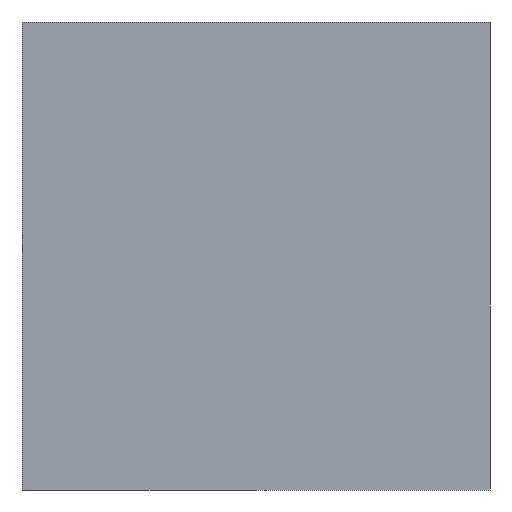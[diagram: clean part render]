
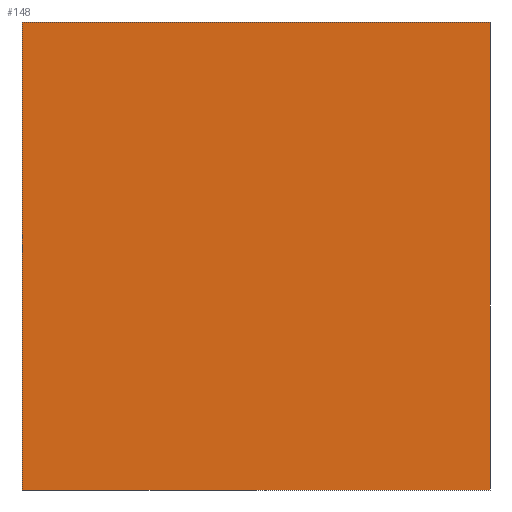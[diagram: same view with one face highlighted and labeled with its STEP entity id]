
A CAD part, left-side view. The second image highlights one B-rep face of the part: STEP entity #148.
In plain terms, the highlighted planar face has unit normal (-1, 0, 0).
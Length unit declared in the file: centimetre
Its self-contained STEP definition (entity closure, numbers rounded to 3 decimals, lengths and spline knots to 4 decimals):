
#16 = EDGE_CURVE ( 'NONE', #221, #219, #375, .T. ) ;
#20 = DIRECTION ( 'NONE',  ( 0., -1., 0. ) ) ;
#21 = ORIENTED_EDGE ( 'NONE', *, *, #176, .T. ) ;
#34 = CARTESIAN_POINT ( 'NONE',  ( 0., 1000., 1000. ) ) ;
#49 = ORIENTED_EDGE ( 'NONE', *, *, #217, .F. ) ;
#55 = CARTESIAN_POINT ( 'NONE',  ( 0., 1000., 0. ) ) ;
#56 = VECTOR ( 'NONE', #20, 100. ) ;
#87 = LINE ( 'NONE', #55, #338 ) ;
#90 = DIRECTION ( 'NONE',  ( 0., 0., -1. ) ) ;
#110 = CARTESIAN_POINT ( 'NONE',  ( 0., 1000., 1000. ) ) ;
#121 = CARTESIAN_POINT ( 'NONE',  ( 0., 0., 1000. ) ) ;
#140 = FACE_OUTER_BOUND ( 'NONE', #164, .T. ) ;
#142 = LINE ( 'NONE', #262, #56 ) ;
#145 = DIRECTION ( 'NONE',  ( 0., 0., -1. ) ) ;
#147 = CARTESIAN_POINT ( 'NONE',  ( 0., 1000., 0. ) ) ;
#148 = ADVANCED_FACE ( 'NONE', ( #140 ), #330, .F. ) ;
#152 = CARTESIAN_POINT ( 'NONE',  ( 0., 0., 1000. ) ) ;
#164 = EDGE_LOOP ( 'NONE', ( #21, #234, #49, #231 ) ) ;
#176 = EDGE_CURVE ( 'NONE', #219, #295, #87, .T. ) ;
#178 = AXIS2_PLACEMENT_3D ( 'NONE', #263, #324, #145 ) ;
#182 = VECTOR ( 'NONE', #90, 100. ) ;
#203 = DIRECTION ( 'NONE',  ( 0., -1., 0. ) ) ;
#204 = CARTESIAN_POINT ( 'NONE',  ( 0., 0., 0. ) ) ;
#217 = EDGE_CURVE ( 'NONE', #221, #383, #142, .T. ) ;
#219 = VERTEX_POINT ( 'NONE', #147 ) ;
#221 = VERTEX_POINT ( 'NONE', #110 ) ;
#231 = ORIENTED_EDGE ( 'NONE', *, *, #16, .T. ) ;
#234 = ORIENTED_EDGE ( 'NONE', *, *, #341, .F. ) ;
#240 = VECTOR ( 'NONE', #255, 100. ) ;
#255 = DIRECTION ( 'NONE',  ( 0., 0., -1. ) ) ;
#262 = CARTESIAN_POINT ( 'NONE',  ( 0., 1000., 1000. ) ) ;
#263 = CARTESIAN_POINT ( 'NONE',  ( 0., 1000., 1000. ) ) ;
#295 = VERTEX_POINT ( 'NONE', #204 ) ;
#324 = DIRECTION ( 'NONE',  ( 1., 0., 0. ) ) ;
#330 = PLANE ( 'NONE',  #178 ) ;
#338 = VECTOR ( 'NONE', #203, 100. ) ;
#341 = EDGE_CURVE ( 'NONE', #383, #295, #368, .T. ) ;
#368 = LINE ( 'NONE', #152, #182 ) ;
#375 = LINE ( 'NONE', #34, #240 ) ;
#383 = VERTEX_POINT ( 'NONE', #121 ) ;
